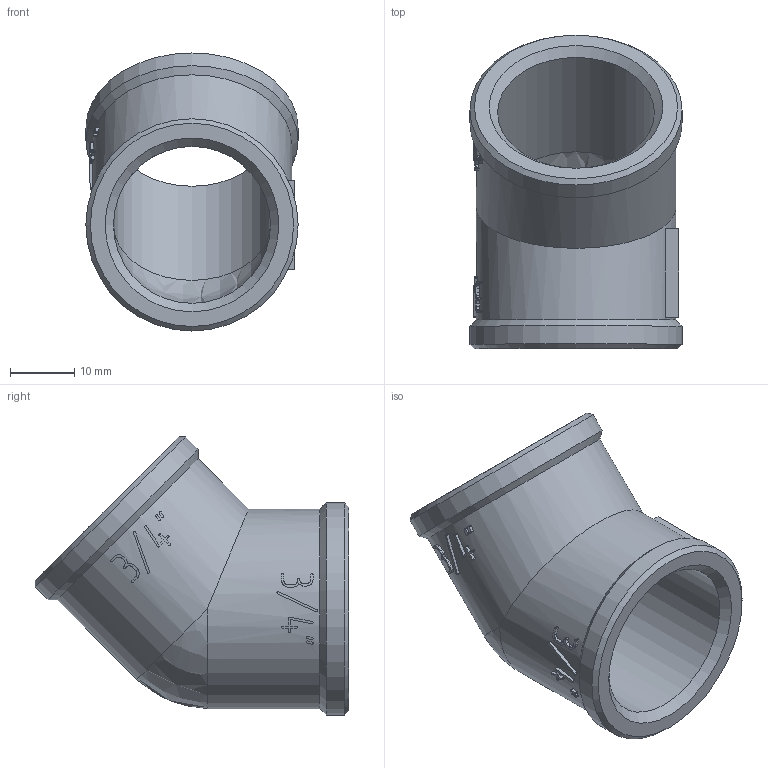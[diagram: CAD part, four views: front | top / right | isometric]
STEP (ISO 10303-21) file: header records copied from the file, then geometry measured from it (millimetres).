
FILE_DESCRIPTION(('STEP AP203'), '1');
FILE_NAME('ÂÐ.752216.007 - VTr.091.N.0005 - Ôèò. ðåçüá. óãîë', '2024-06-20T11:15:08', ('Boss'), (''), 'C3D Converter', 'C3D Toolkit', '');
FILE_SCHEMA(('CONFIG_CONTROL_DESIGN'));
Length unit declared in the file: millimetre
Products named in the file (1): ВР.752216.007
Bounding box: 33 x 48.73 x 43.23 mm (x, y, z)
Volume: 13363.5 mm3; surface area: 8507.8 mm2
Topology: 1 solids, 1 shells, 252 faces, 709 edges, 467 vertices
Faces by surface type: extrusion 138, plane 89, cylinder 17, cone 6, sphere 2
Full cylindrical faces by diameter (mm): 24.4 x2, 31 x2, 33 x2
Entity records: 10886 total; most frequent: CARTESIAN_POINT 5124, ORIENTED_EDGE 1384, DIRECTION 771, EDGE_CURVE 692, VERTEX_POINT 467, VECTOR 419, B_SPLINE_CURVE_WITH_KNOTS 414, LINE 281
